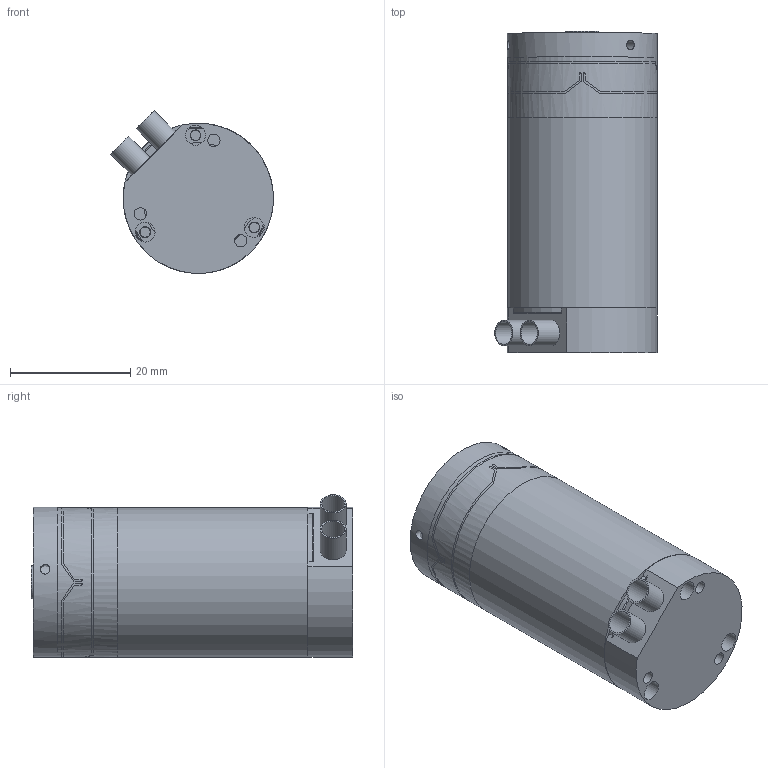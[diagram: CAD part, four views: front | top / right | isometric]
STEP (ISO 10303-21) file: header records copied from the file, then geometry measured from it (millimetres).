
FILE_DESCRIPTION (( 'STEP AP203' ), '1' );
FILE_NAME ('T2a-b00006.STEP', '2021-06-02T15:38:53', ( '' ), ( '' ), 'SwSTEP 2.0', 'SolidWorks 2021', '' );
FILE_SCHEMA (( 'CONFIG_CONTROL_DESIGN' ));
Length unit declared in the file: millimetre
Products named in the file (1): T2a-b00006
Bounding box: 27.1 x 53.5 x 27.1 mm (x, y, z)
Surface area: 9596.7 mm2 (no closed solid volume)
Topology: 0 solids, 13 shells, 102 faces, 452 edges, 357 vertices
Faces by surface type: plane 57, cylinder 33, cone 12
Full cylindrical faces by diameter (mm): 1.6 x4, 2.05 x3, 3 x2, 3.2 x2, 3.3 x3, 3.5 x2, 3.8 x4, 4.3 x2, 5.5 x1, 6 x5, 23.8 x1, 24.5 x1, 25 x2
Entity records: 4954 total; most frequent: CARTESIAN_POINT 1515, DIRECTION 660, ORIENTED_EDGE 552, EDGE_CURVE 404, VERTEX_POINT 348, AXIS2_PLACEMENT_3D 241, EDGE_LOOP 198, VECTOR 178
